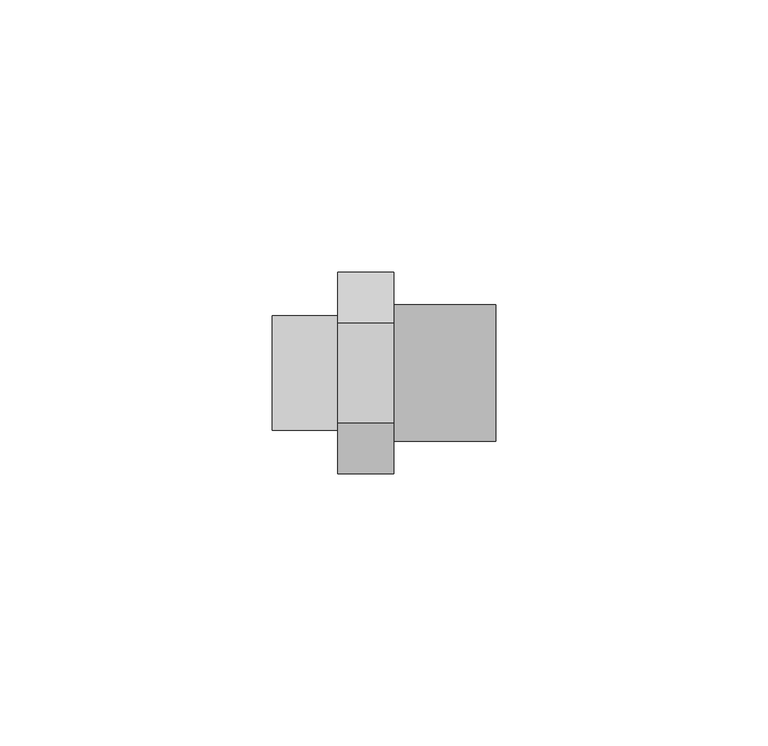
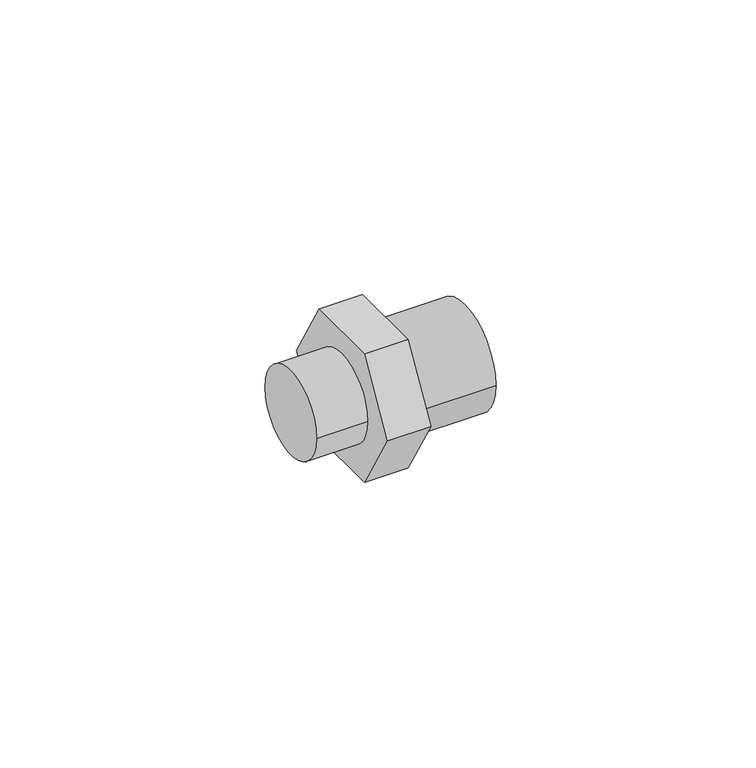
"""IFC4 building model written with IfcOpenShell, lengths in millimetres: pipe fitting geometry, 01101008 : Uniões múltiplas F/M/F."""

from ifc_helpers import new_model, si_unit, point, frame, origin, origin_2d, place, context, project, spatial, polyline, circle_curve, trimmed, segment, composite_curve, outline, extrude, source, transform, mapped, element, save


def pipe_fitting_7e71b64a(model_context):
    return source(origin(), model_context, "Body", "SweptSolid", [
        extrude(outline(composite_curve([segment(trimmed(circle_curve(origin_2d(), 10.5), [point((10.5, 0.0))], [point((-10.5, 0.0))], False, "CARTESIAN"), True, "CONTINUOUS"), segment(trimmed(circle_curve(origin_2d(), 10.5), [point((-10.5, 0.0))], [point((10.5, 0.0))], False, "CARTESIAN"), True, "CONTINUOUS")], self_intersect=False)), frame((0.0, 0.0, 0.0), z_axis=(1.0, 0.0, 0.0), x_axis=(0.0, 1.0, 0.0)), (0.0, 0.0, 1.0), 12.0),
        extrude(outline(polyline([(-9.2376043, 16.0), (9.2376043, 16.0), (18.4752086, 0.0), (9.2376043, -16.0), (-9.2376043, -16.0), (-18.4752086, 0.0), (-9.2376043, 16.0)])), frame((12.0, 0.0, 0.0), z_axis=(1.0, 0.0, 0.0), x_axis=(0.0, 1.0, 0.0)), (0.0, 0.0, 1.0), 10.25),
        extrude(outline(composite_curve([segment(trimmed(circle_curve(origin_2d(), 12.5), [point((-12.5, 0.0))], [point((12.5, 0.0))], False, "CARTESIAN"), True, "CONTINUOUS"), segment(trimmed(circle_curve(origin_2d(), 12.5), [point((12.5, 0.0))], [point((-12.5, 0.0))], False, "CARTESIAN"), True, "CONTINUOUS")], self_intersect=False)), frame((22.25, 0.0, 0.0), z_axis=(1.0, 0.0, 0.0), x_axis=(0.0, 1.0, 0.0)), (0.0, 0.0, 1.0), 18.75),
    ])


if __name__ == "__main__":
    model = new_model("IFC4")
    model_context = context("Model", 3, world=origin())
    ifc_project = project(units=[si_unit("LENGTHUNIT", "METRE", prefix="MILLI")], contexts=[model_context])
    site = spatial("IfcSite", under=ifc_project)
    building = spatial("IfcBuilding", under=site)
    placement = place(None, origin())
    pipe_fitting_shape = pipe_fitting_7e71b64a(model_context)
    element("IfcPipeFitting", 1, ObjectType="01101008 : Uniões múltiplas F/M/F", at=placement, inside=building, context=model_context, shape_type="MappedRepresentation", body=[
        mapped(pipe_fitting_shape, transform((0.0, 0.0, 0.0), x_axis=(1.0, 0.0, 0.0), y_axis=(0.0, 1.0, 0.0), z_axis=(0.0, 0.0, 1.0))),
    ])
    save(model, "model.ifc")
